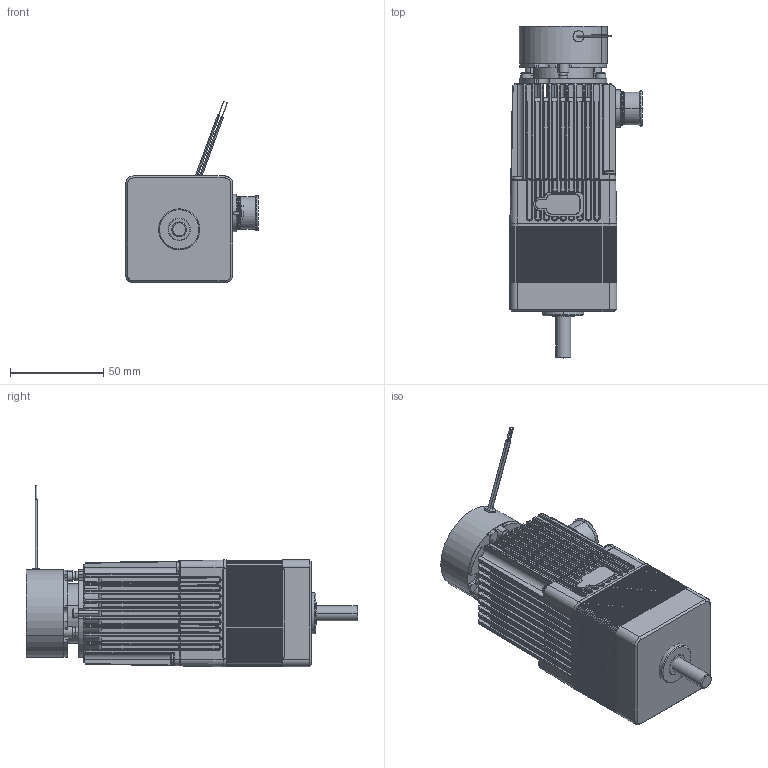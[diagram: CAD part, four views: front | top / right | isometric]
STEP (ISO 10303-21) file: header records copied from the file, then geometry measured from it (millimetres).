
FILE_DESCRIPTION((''),'2;1');
FILE_NAME('ENV_SIMP_STEP_TEMP','2012-10-24T',('VALJBL1'),('CROUZET-AUTOMATISMES'),'PRO/ENGINEER BY PARAMETRIC TECHNOLOGY CORPORATION, 2012090','PRO/ENGINEER BY PARAMETRIC TECHNOLOGY CORPORATION, 2012090','');
FILE_SCHEMA(('CONFIG_CONTROL_DESIGN'));
Products named in the file (1): ENV_SIMP_STEP_TEMP
Bounding box: 71.05 x 177.55 x 97.22 mm (x, y, z)
Surface area: 92657.8 mm2 (no closed solid volume)
Topology: 0 solids, 186 shells, 2788 faces, 8372 edges, 5658 vertices
Faces by surface type: cylinder 1343, plane 1144, sphere 124, bspline 90, torus 63, cone 24
Entity records: 101686 total; most frequent: CARTESIAN_POINT 30780, DIRECTION 14261, ORIENTED_EDGE 13550, EDGE_CURVE 8372, VERTEX_POINT 5658, AXIS2_PLACEMENT_3D 4775, VECTOR 4711, LINE 4711
